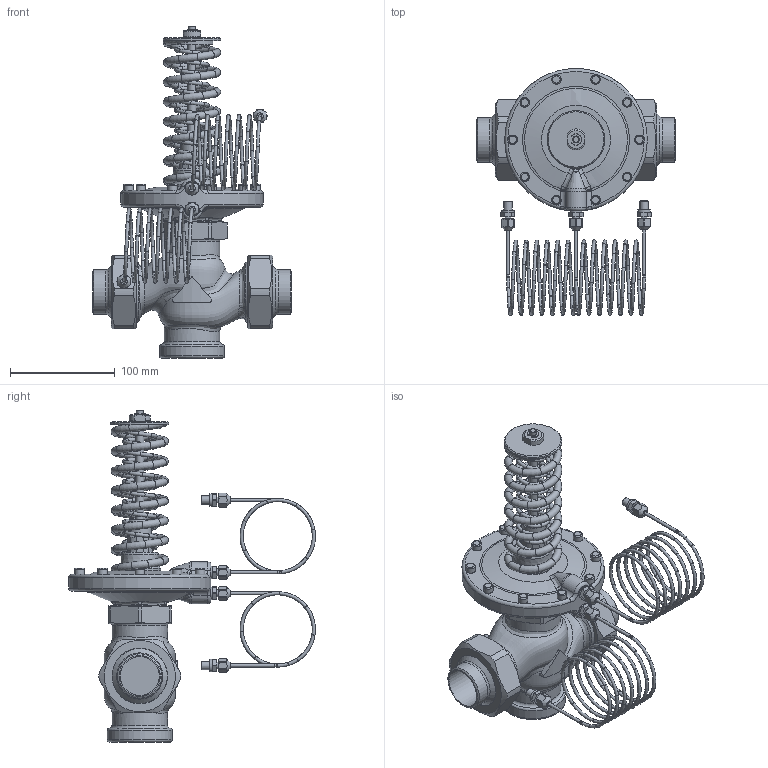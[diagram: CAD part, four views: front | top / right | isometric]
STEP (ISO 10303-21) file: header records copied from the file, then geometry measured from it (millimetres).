
FILE_DESCRIPTION(/* description */ (''),/* implementation_level */ '2;1');
FILE_NAME(/* name */ 'rd122d2_dn32_W.stp',/* time_stamp */ '2012-11-12T09:27:21+01:00',/* author */ ('JENIK'),/* organization */ ('LDM'),/* preprocessor_version */ 'ST-DEVELOPER v11',/* originating_system */ 'SIEMENS PLM Software NX 7.0',/* authorisation */ '');
FILE_SCHEMA (('CONFIG_CONTROL_DESIGN'));
Length unit declared in the file: millimetre
Products named in the file (1): jeniB5D7d0da
Bounding box: 190 x 235.73 x 317 mm (x, y, z)
Volume: 621755.1 mm3; surface area: 232352.5 mm2
Topology: 9 solids, 22 shells, 882 faces, 1990 edges, 1191 vertices
Faces by surface type: torus 324, plane 224, cylinder 203, cone 76, bspline 48, sphere 7
Full cylindrical faces by diameter (mm): 2 x2, 3 x4, 4.891 x10, 6 x12, 6.5 x14, 6.6 x1, 7.794 x4, 8 x7, 9 x10, 12 x4, 22 x1, 24.5 x1, 30 x1, 35 x1, 37.2 x2, 38 x1, 40 x2, 42.4 x2, 44 x2, 52.6 x2, 53 x4, 55 x1, 56 x2, 56.2 x2, 56.656 x2, 59.614 x2, 62 x1, 136 x1
Entity records: 29789 total; most frequent: CARTESIAN_POINT 12742, DIRECTION 3661, ORIENTED_EDGE 2814, AXIS2_PLACEMENT_3D 1682, EDGE_LOOP 1428, EDGE_CURVE 1407, VERTEX_POINT 1073, FACE_BOUND 1072
